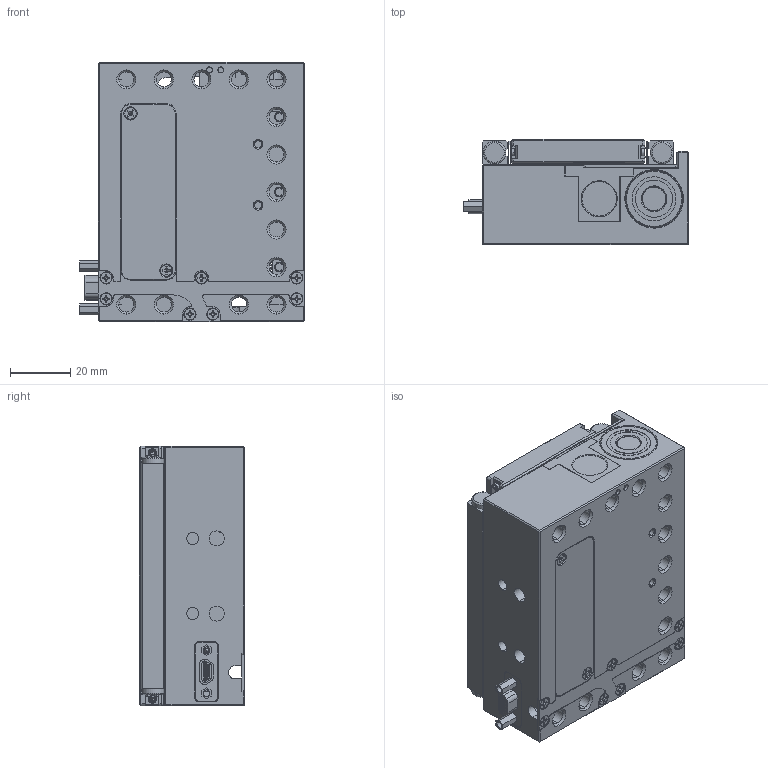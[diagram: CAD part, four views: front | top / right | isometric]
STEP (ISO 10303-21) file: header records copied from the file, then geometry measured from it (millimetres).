
FILE_DESCRIPTION (( 'STEP AP214' ), '1' );
FILE_NAME ('LS-25-YMXXL (CATALOG MODEL).STEP', '2024-03-04T19:39:12', ( '' ), ( '' ), 'SwSTEP 2.0', 'SolidWorks 2023', '' );
FILE_SCHEMA (( 'AUTOMOTIVE_DESIGN' ));
Length unit declared in the file: inch
Products named in the file (1): LS-25-YMXXL (CATALOG MODEL)
Bounding box: 74.86 x 34.99 x 86.36 mm (x, y, z)
Surface area: 41978.8 mm2 (no closed solid volume)
Topology: 0 solids, 70 shells, 1192 faces, 3754 edges, 2566 vertices
Faces by surface type: plane 543, cone 322, cylinder 290, bspline 19, torus 9, sphere 9
Entity records: 44838 total; most frequent: CARTESIAN_POINT 12270, DIRECTION 6847, ORIENTED_EDGE 6262, EDGE_CURVE 3692, VERTEX_POINT 2548, AXIS2_PLACEMENT_3D 2484, LINE 1879, VECTOR 1879
